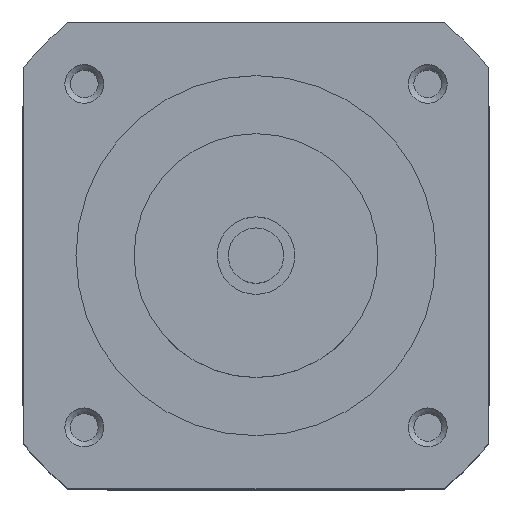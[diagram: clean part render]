
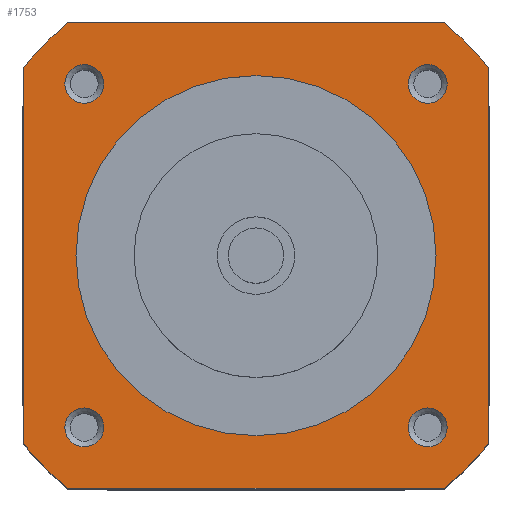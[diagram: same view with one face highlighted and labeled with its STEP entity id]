
A CAD part, top view. The second image highlights one B-rep face of the part: STEP entity #1753.
In plain terms, the highlighted planar face has unit normal (0, 0, 1).
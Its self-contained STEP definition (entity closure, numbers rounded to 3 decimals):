
#33=FACE_BOUND('',#312,.T.);
#34=FACE_BOUND('',#313,.T.);
#35=FACE_BOUND('',#314,.T.);
#36=FACE_BOUND('',#315,.T.);
#37=FACE_BOUND('',#316,.T.);
#48=PLANE('',#1881);
#204=FACE_OUTER_BOUND('',#311,.T.);
#311=EDGE_LOOP('',(#1242,#1243,#1244,#1245,#1246,#1247,#1248,#1249));
#312=EDGE_LOOP('',(#1250));
#313=EDGE_LOOP('',(#1251));
#314=EDGE_LOOP('',(#1252));
#315=EDGE_LOOP('',(#1253));
#316=EDGE_LOOP('',(#1254));
#438=LINE('',#2662,#589);
#439=LINE('',#2666,#590);
#440=LINE('',#2670,#591);
#441=LINE('',#2673,#592);
#589=VECTOR('',#2110,33.941);
#590=VECTOR('',#2113,33.941);
#591=VECTOR('',#2116,33.941);
#592=VECTOR('',#2119,33.941);
#733=CIRCLE('',#1882,27.);
#734=CIRCLE('',#1883,27.);
#735=CIRCLE('',#1884,27.);
#736=CIRCLE('',#1885,27.);
#737=CIRCLE('',#1886,1.75);
#738=CIRCLE('',#1887,1.75);
#739=CIRCLE('',#1888,1.75);
#740=CIRCLE('',#1889,1.75);
#741=CIRCLE('',#1890,16.25);
#836=VERTEX_POINT('',#2658);
#837=VERTEX_POINT('',#2659);
#838=VERTEX_POINT('',#2661);
#839=VERTEX_POINT('',#2663);
#840=VERTEX_POINT('',#2665);
#841=VERTEX_POINT('',#2667);
#842=VERTEX_POINT('',#2669);
#843=VERTEX_POINT('',#2671);
#844=VERTEX_POINT('',#2674);
#845=VERTEX_POINT('',#2676);
#846=VERTEX_POINT('',#2678);
#847=VERTEX_POINT('',#2680);
#848=VERTEX_POINT('',#2682);
#993=EDGE_CURVE('',#836,#837,#733,.T.);
#994=EDGE_CURVE('',#836,#838,#438,.T.);
#995=EDGE_CURVE('',#839,#838,#734,.T.);
#996=EDGE_CURVE('',#839,#840,#439,.T.);
#997=EDGE_CURVE('',#841,#840,#735,.T.);
#998=EDGE_CURVE('',#841,#842,#440,.T.);
#999=EDGE_CURVE('',#843,#842,#736,.T.);
#1000=EDGE_CURVE('',#843,#837,#441,.T.);
#1001=EDGE_CURVE('',#844,#844,#737,.T.);
#1002=EDGE_CURVE('',#845,#845,#738,.T.);
#1003=EDGE_CURVE('',#846,#846,#739,.T.);
#1004=EDGE_CURVE('',#847,#847,#740,.T.);
#1005=EDGE_CURVE('',#848,#848,#741,.T.);
#1242=ORIENTED_EDGE('',*,*,#993,.F.);
#1243=ORIENTED_EDGE('',*,*,#994,.T.);
#1244=ORIENTED_EDGE('',*,*,#995,.F.);
#1245=ORIENTED_EDGE('',*,*,#996,.T.);
#1246=ORIENTED_EDGE('',*,*,#997,.F.);
#1247=ORIENTED_EDGE('',*,*,#998,.T.);
#1248=ORIENTED_EDGE('',*,*,#999,.F.);
#1249=ORIENTED_EDGE('',*,*,#1000,.T.);
#1250=ORIENTED_EDGE('',*,*,#1001,.F.);
#1251=ORIENTED_EDGE('',*,*,#1002,.F.);
#1252=ORIENTED_EDGE('',*,*,#1003,.F.);
#1253=ORIENTED_EDGE('',*,*,#1004,.F.);
#1254=ORIENTED_EDGE('',*,*,#1005,.T.);
#1753=ADVANCED_FACE('',(#204,#33,#34,#35,#36,#37),#48,.T.);
#1881=AXIS2_PLACEMENT_3D('',#2657,#2106,#2107);
#1882=AXIS2_PLACEMENT_3D('',#2660,#2108,#2109);
#1883=AXIS2_PLACEMENT_3D('',#2664,#2111,#2112);
#1884=AXIS2_PLACEMENT_3D('',#2668,#2114,#2115);
#1885=AXIS2_PLACEMENT_3D('',#2672,#2117,#2118);
#1886=AXIS2_PLACEMENT_3D('',#2675,#2120,#2121);
#1887=AXIS2_PLACEMENT_3D('',#2677,#2122,#2123);
#1888=AXIS2_PLACEMENT_3D('',#2679,#2124,#2125);
#1889=AXIS2_PLACEMENT_3D('',#2681,#2126,#2127);
#1890=AXIS2_PLACEMENT_3D('',#2683,#2128,#2129);
#2106=DIRECTION('center_axis',(0.,0.,1.));
#2107=DIRECTION('ref_axis',(1.,0.,0.));
#2108=DIRECTION('center_axis',(0.,0.,-1.));
#2109=DIRECTION('ref_axis',(0.,1.,0.));
#2110=DIRECTION('',(0.,1.,0.));
#2111=DIRECTION('center_axis',(0.,0.,-1.));
#2112=DIRECTION('ref_axis',(0.,1.,0.));
#2113=DIRECTION('',(-1.,0.,0.));
#2114=DIRECTION('center_axis',(0.,0.,-1.));
#2115=DIRECTION('ref_axis',(0.,1.,0.));
#2116=DIRECTION('',(0.,-1.,0.));
#2117=DIRECTION('center_axis',(0.,0.,-1.));
#2118=DIRECTION('ref_axis',(0.,1.,0.));
#2119=DIRECTION('',(1.,0.,0.));
#2120=DIRECTION('center_axis',(0.,0.,1.));
#2121=DIRECTION('ref_axis',(1.,0.,0.));
#2122=DIRECTION('center_axis',(0.,0.,1.));
#2123=DIRECTION('ref_axis',(1.,0.,0.));
#2124=DIRECTION('center_axis',(0.,0.,1.));
#2125=DIRECTION('ref_axis',(1.,0.,0.));
#2126=DIRECTION('center_axis',(0.,0.,1.));
#2127=DIRECTION('ref_axis',(1.,0.,0.));
#2128=DIRECTION('center_axis',(0.,0.,-1.));
#2129=DIRECTION('ref_axis',(0.,1.,0.));
#2657=CARTESIAN_POINT('Origin',(0.,16.25,38.5));
#2658=CARTESIAN_POINT('',(21.,-16.971,38.5));
#2659=CARTESIAN_POINT('',(16.971,-21.,38.5));
#2660=CARTESIAN_POINT('Origin',(0.,0.,38.5));
#2661=CARTESIAN_POINT('',(21.,16.971,38.5));
#2662=CARTESIAN_POINT('',(21.,-16.971,38.5));
#2663=CARTESIAN_POINT('',(16.971,21.,38.5));
#2664=CARTESIAN_POINT('Origin',(0.,0.,38.5));
#2665=CARTESIAN_POINT('',(-16.971,21.,38.5));
#2666=CARTESIAN_POINT('',(16.971,21.,38.5));
#2667=CARTESIAN_POINT('',(-21.,16.971,38.5));
#2668=CARTESIAN_POINT('Origin',(0.,0.,38.5));
#2669=CARTESIAN_POINT('',(-21.,-16.971,38.5));
#2670=CARTESIAN_POINT('',(-21.,16.971,38.5));
#2671=CARTESIAN_POINT('',(-16.971,-21.,38.5));
#2672=CARTESIAN_POINT('Origin',(0.,0.,38.5));
#2673=CARTESIAN_POINT('',(-16.971,-21.,38.5));
#2674=CARTESIAN_POINT('',(-17.25,15.5,38.5));
#2675=CARTESIAN_POINT('Origin',(-15.5,15.5,38.5));
#2676=CARTESIAN_POINT('',(13.75,15.5,38.5));
#2677=CARTESIAN_POINT('Origin',(15.5,15.5,38.5));
#2678=CARTESIAN_POINT('',(13.75,-15.5,38.5));
#2679=CARTESIAN_POINT('Origin',(15.5,-15.5,38.5));
#2680=CARTESIAN_POINT('',(-17.25,-15.5,38.5));
#2681=CARTESIAN_POINT('Origin',(-15.5,-15.5,38.5));
#2682=CARTESIAN_POINT('',(0.,-16.25,38.5));
#2683=CARTESIAN_POINT('Origin',(0.,0.,38.5));
